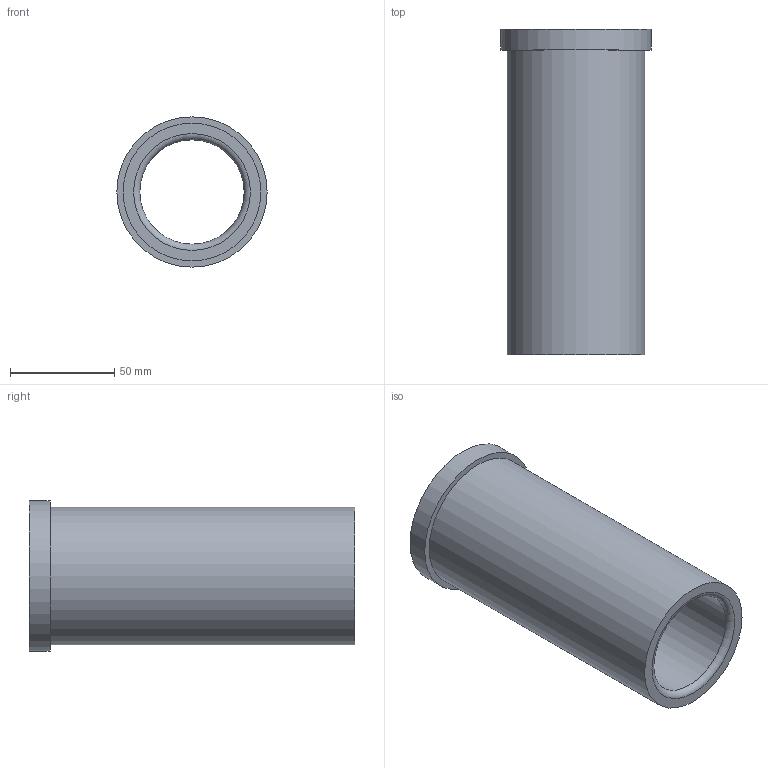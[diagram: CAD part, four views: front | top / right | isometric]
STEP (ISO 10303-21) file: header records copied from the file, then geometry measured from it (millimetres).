
FILE_DESCRIPTION(/* description */ ('STEP AP214'),/* implementation_level */ '2;1');
FILE_NAME(/* name */ '03_12_17870',/* time_stamp */ '2023-06-15T11:35:48+02:00',/* author */ ('License CC BY-ND 4.0'),/* organization */ ('CADENAS'),/* preprocessor_version */ 'ST-DEVELOPER v19.3',/* originating_system */ 'PARTsolutions',/* authorisation */ ' ');
FILE_SCHEMA (('AUTOMOTIVE_DESIGN {1 0 10303 214 3 1 1}'));
Length unit declared in the file: millimetre
Products named in the file (1): VA_Bushing_17870
Bounding box: 72 x 156 x 72 mm (x, y, z)
Volume: 231798.4 mm3; surface area: 60914.6 mm2
Topology: 1 solids, 1 shells, 10 faces, 16 edges, 10 vertices
Faces by surface type: cylinder 4, plane 4, torus 2
Full cylindrical faces by diameter (mm): 50 x1, 50.6 x1, 66 x1, 72 x1
Entity records: 302 total; most frequent: DIRECTION 42, CARTESIAN_POINT 31, AXIS2_PLACEMENT_3D 21, ORIENTED_EDGE 20, EDGE_LOOP 20, FACE_BOUND 20, EDGE_CURVE 10, VERTEX_POINT 10
